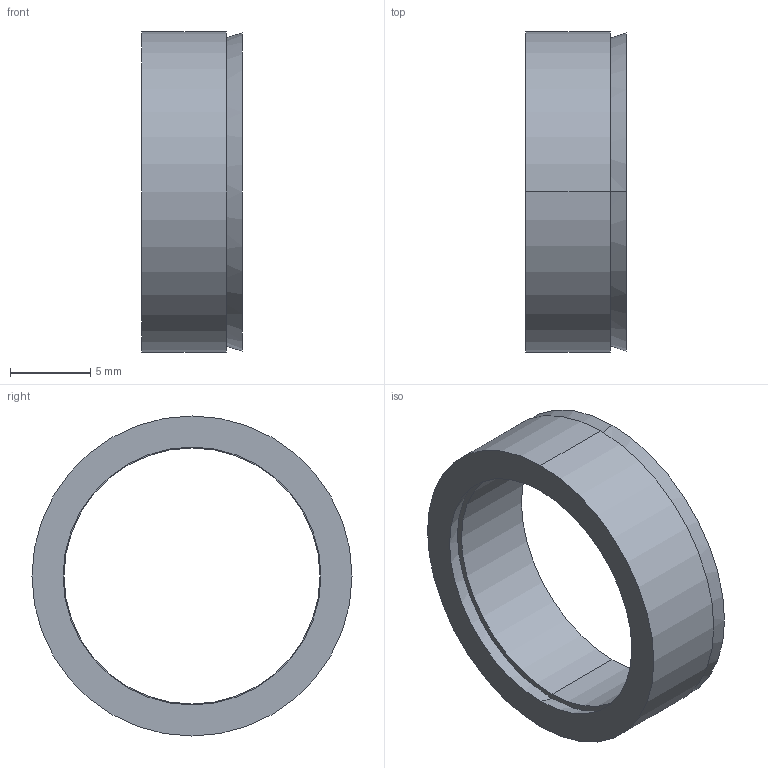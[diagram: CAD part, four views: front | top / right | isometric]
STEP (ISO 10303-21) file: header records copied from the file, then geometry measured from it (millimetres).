
FILE_DESCRIPTION (( 'STEP AP203' ), '1' );
FILE_NAME ('R-16-20.STEP', '2017-11-06T01:55:23', ( 'MYCOM' ), ( '' ), 'SwSTEP 2.0', 'SolidWorks 2015', '' );
FILE_SCHEMA (( 'CONFIG_CONTROL_DESIGN' ));
Length unit declared in the file: millimetre
Products named in the file (1): R-16-20
Bounding box: 6.3 x 20 x 20 mm (x, y, z)
Surface area: 1485.3 mm2 (no closed solid volume)
Topology: 0 solids, 2 shells, 12 faces, 24 edges, 16 vertices
Faces by surface type: cone 4, cylinder 4, plane 4
Entity records: 406 total; most frequent: DIRECTION 66, CARTESIAN_POINT 53, ORIENTED_EDGE 48, AXIS2_PLACEMENT_3D 29, EDGE_CURVE 24, EDGE_LOOP 16, VERTEX_POINT 16, CIRCLE 16
